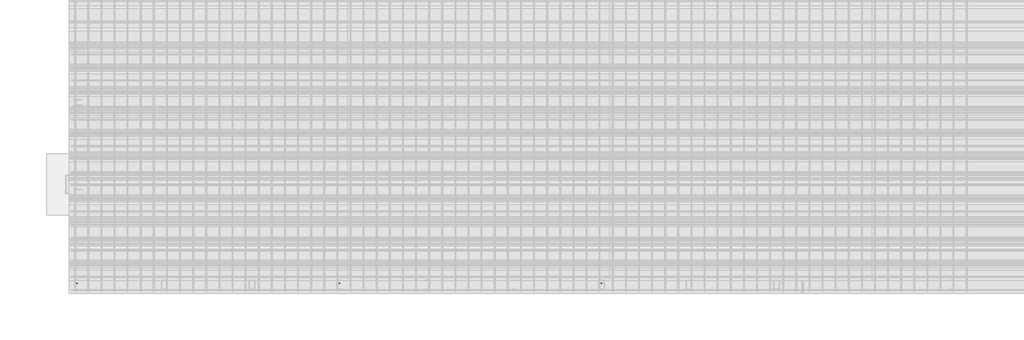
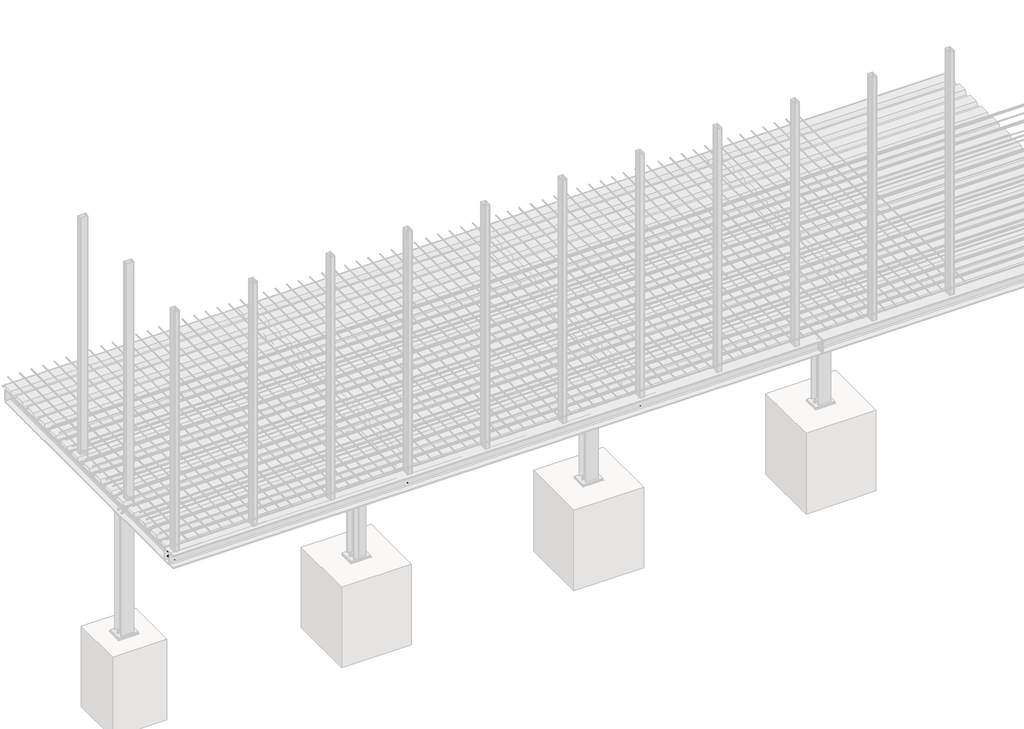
# One storey, part 23 of 36: 3 assemblies.
"""IFC4 building model written with IfcOpenShell, lengths in millimetres."""

from ifc_helpers import new_model, si_unit, point, frame, frame_2d, origin, place, context, project, spatial, polyline, circle_curve, trimmed, segment, composite_curve, outline, extrude, element, save

model = new_model("IFC4")

# Units and contexts
model_context = context("Model", 3, world=origin())
ifc_project = project(units=[si_unit("LENGTHUNIT", "METRE", prefix="MILLI")], contexts=[model_context])

# Site, building, storey
site = spatial("IfcSite", under=ifc_project)
building = spatial("IfcBuilding", under=site)
storey = spatial("IfcBuildingStorey", under=building, Name="Základy", Elevation=-1200.0)

# Assemblies
placement = place(None, origin())
element("IfcElementAssembly", 1, at=placement, inside=storey, context=model_context, shape_type="SweptSolid", body=[
    extrude(outline(composite_curve([segment(polyline([(5073.6, 60.0), (5026.4, 60.0)]), True, "CONTINUOUS"), segment(trimmed(circle_curve(frame_2d((5026.4, 66.4)), 6.4), [point((5026.4, 60.0))], [point((5020.0, 66.4))], False, "CARTESIAN"), True, "CONTINUOUS"), segment(polyline([(5020.0, 66.4), (5020.0, 153.6)]), True, "CONTINUOUS"), segment(trimmed(circle_curve(frame_2d((5026.4, 153.6)), 6.4), [point((5020.0, 153.6))], [point((5026.4, 160.0))], False, "CARTESIAN"), True, "CONTINUOUS"), segment(polyline([(5026.4, 160.0), (5073.6, 160.0)]), True, "CONTINUOUS"), segment(trimmed(circle_curve(frame_2d((5073.6, 153.6)), 6.4), [point((5073.6, 160.0))], [point((5080.0, 153.6))], False, "CARTESIAN"), True, "CONTINUOUS"), segment(polyline([(5080.0, 153.6), (5080.0, 66.4)]), True, "CONTINUOUS"), segment(trimmed(circle_curve(frame_2d((5073.6, 66.4)), 6.4), [point((5080.0, 66.4))], [point((5073.6, 60.0))], False, "CARTESIAN"), True, "CONTINUOUS")], self_intersect=False), holes=[composite_curve([segment(trimmed(circle_curve(frame_2d((5073.6, 66.4)), 3.2), [point((5073.6, 63.2))], [point((5076.8, 66.4))], True, "CARTESIAN"), True, "CONTINUOUS"), segment(polyline([(5076.8, 66.4), (5076.8, 153.6)]), True, "CONTINUOUS"), segment(trimmed(circle_curve(frame_2d((5073.6, 153.6)), 3.2), [point((5076.8, 153.6))], [point((5073.6, 156.8))], True, "CARTESIAN"), True, "CONTINUOUS"), segment(polyline([(5073.6, 156.8), (5026.4, 156.8)]), True, "CONTINUOUS"), segment(trimmed(circle_curve(frame_2d((5026.4, 153.6)), 3.2), [point((5026.4, 156.8))], [point((5023.2, 153.6))], True, "CARTESIAN"), True, "CONTINUOUS"), segment(polyline([(5023.2, 153.6), (5023.2, 66.4)]), True, "CONTINUOUS"), segment(trimmed(circle_curve(frame_2d((5026.4, 66.4)), 3.2), [point((5023.2, 66.4))], [point((5026.4, 63.2))], True, "CARTESIAN"), True, "CONTINUOUS"), segment(polyline([(5026.4, 63.2), (5073.6, 63.2)]), True, "CONTINUOUS")], self_intersect=False)]), frame((0.0, 0.0, -160.0), z_axis=(0.0, 0.0, 1.0), x_axis=(1.0, 0.0, 0.0)), (0.0, 0.0, 1.0), 3320.0),
])
element("IfcElementAssembly", 2, at=placement, inside=storey, context=model_context, shape_type="SweptSolid", body=[
    extrude(outline(composite_curve([segment(polyline([(10.0, -160.0), (190.0, -160.0), (190.0, -174.0), (119.25, -174.0)]), True, "CONTINUOUS"), segment(trimmed(circle_curve(frame_2d((119.25, -189.0)), 15.0), [point((119.25, -174.0))], [point((104.25, -189.0))], True, "CARTESIAN"), True, "CONTINUOUS"), segment(polyline([(104.25, -189.0), (104.25, -311.0)]), True, "CONTINUOUS"), segment(trimmed(circle_curve(frame_2d((119.25, -311.0)), 15.0), [point((104.25, -311.0))], [point((119.25, -326.0))], True, "CARTESIAN"), True, "CONTINUOUS"), segment(polyline([(119.25, -326.0), (190.0, -326.0), (190.0, -340.0), (10.0, -340.0), (10.0, -326.0), (80.75, -326.0)]), True, "CONTINUOUS"), segment(trimmed(circle_curve(frame_2d((80.75, -311.0)), 15.0), [point((80.75, -326.0))], [point((95.75, -311.0))], True, "CARTESIAN"), True, "CONTINUOUS"), segment(polyline([(95.75, -311.0), (95.75, -189.0)]), True, "CONTINUOUS"), segment(trimmed(circle_curve(frame_2d((80.75, -189.0)), 15.0), [point((95.75, -189.0))], [point((80.75, -174.0))], True, "CARTESIAN"), True, "CONTINUOUS"), segment(polyline([(80.75, -174.0), (10.0, -174.0), (10.0, -160.0)]), True, "CONTINUOUS")], self_intersect=False)), frame((-40.0, 0.0, 0.0), z_axis=(1.0, 0.0, 0.0), x_axis=(0.0, 1.0, 0.0)), (0.0, 0.0, 1.0), 8380.0),
    extrude(outline(composite_curve([segment(polyline([(190.0, -174.0), (190.0, -326.0), (124.25, -326.0)]), True, "CONTINUOUS"), segment(trimmed(circle_curve(frame_2d((104.25, -326.0)), 20.0), [point((124.25, -326.0))], [point((104.25, -306.0))], True, "CARTESIAN"), True, "CONTINUOUS"), segment(polyline([(104.25, -306.0), (104.25, -194.0)]), True, "CONTINUOUS"), segment(trimmed(circle_curve(frame_2d((104.25, -174.0)), 20.0), [point((104.25, -194.0))], [point((124.25, -174.0))], True, "CARTESIAN"), True, "CONTINUOUS"), segment(polyline([(124.25, -174.0), (190.0, -174.0)]), True, "CONTINUOUS")], self_intersect=False)), frame((3046.0, 0.0, 0.0), z_axis=(1.0, 0.0, 0.0), x_axis=(0.0, 1.0, 0.0)), (0.0, 0.0, 1.0), 8.0),
    extrude(outline(polyline([(2960.0, 200.0), (3140.0, 200.0), (3140.0, 190.0), (2960.0, 190.0), (2960.0, 200.0)])), frame((0.0, 0.0, -332.0), z_axis=(0.0, 0.0, 1.0), x_axis=(1.0, 0.0, 0.0)), (0.0, 0.0, 1.0), 164.0),
    extrude(outline(composite_curve([segment(polyline([(190.0, -174.0), (190.0, -326.0), (124.25, -326.0)]), True, "CONTINUOUS"), segment(trimmed(circle_curve(frame_2d((104.25, -326.0)), 20.0), [point((124.25, -326.0))], [point((104.25, -306.0))], True, "CARTESIAN"), True, "CONTINUOUS"), segment(polyline([(104.25, -306.0), (104.25, -194.0)]), True, "CONTINUOUS"), segment(trimmed(circle_curve(frame_2d((104.25, -174.0)), 20.0), [point((104.25, -194.0))], [point((124.25, -174.0))], True, "CARTESIAN"), True, "CONTINUOUS"), segment(polyline([(124.25, -174.0), (190.0, -174.0)]), True, "CONTINUOUS")], self_intersect=False)), frame((46.0, 0.0, 0.0), z_axis=(1.0, 0.0, 0.0), x_axis=(0.0, 1.0, 0.0)), (0.0, 0.0, 1.0), 8.0),
    extrude(outline(polyline([(-40.0, 200.0), (140.0, 200.0), (140.0, 190.0), (-40.0, 190.0), (-40.0, 200.0)])), frame((0.0, 0.0, -332.0), z_axis=(0.0, 0.0, 1.0), x_axis=(1.0, 0.0, 0.0)), (0.0, 0.0, 1.0), 164.0),
    extrude(outline(composite_curve([segment(polyline([(190.0, -174.0), (190.0, -326.0), (124.25, -326.0)]), True, "CONTINUOUS"), segment(trimmed(circle_curve(frame_2d((104.25, -326.0)), 20.0), [point((124.25, -326.0))], [point((104.25, -306.0))], True, "CARTESIAN"), True, "CONTINUOUS"), segment(polyline([(104.25, -306.0), (104.25, -194.0)]), True, "CONTINUOUS"), segment(trimmed(circle_curve(frame_2d((104.25, -174.0)), 20.0), [point((104.25, -194.0))], [point((124.25, -174.0))], True, "CARTESIAN"), True, "CONTINUOUS"), segment(polyline([(124.25, -174.0), (190.0, -174.0)]), True, "CONTINUOUS")], self_intersect=False)), frame((6046.0, 0.0, 0.0), z_axis=(1.0, 0.0, 0.0), x_axis=(0.0, 1.0, 0.0)), (0.0, 0.0, 1.0), 8.0),
    extrude(outline(polyline([(5960.0, 200.0), (6140.0, 200.0), (6140.0, 190.0), (5960.0, 190.0), (5960.0, 200.0)])), frame((0.0, 0.0, -332.0), z_axis=(0.0, 0.0, 1.0), x_axis=(1.0, 0.0, 0.0)), (0.0, 0.0, 1.0), 164.0),
    extrude(outline(polyline([(8350.0, 190.0), (8350.0, 10.0), (8340.0, 10.0), (8340.0, 190.0), (8350.0, 190.0)])), frame((0.0, 0.0, -332.0), z_axis=(0.0, 0.0, 1.0), x_axis=(1.0, 0.0, 0.0)), (0.0, 0.0, 1.0), 164.0),
    extrude(outline(composite_curve([segment(trimmed(circle_curve(frame_2d((-290.0, 3005.0)), 9.0), [point((-290.0, 3014.0))], [point((-290.0, 2996.0))], False, "CARTESIAN"), True, "CONTINUOUS"), segment(trimmed(circle_curve(frame_2d((-290.0, 3005.0)), 9.0), [point((-290.0, 2996.0))], [point((-290.0, 3014.0))], False, "CARTESIAN"), True, "CONTINUOUS")], self_intersect=False)), frame((0.0, 190.1, 0.0), z_axis=(0.0, 1.0, 0.0), x_axis=(0.0, 0.0, 1.0)), (0.0, 0.0, 1.0), 10.0),
    extrude(outline(polyline([(-290.0, 3018.8564065), (-278.0, 3011.9282032), (-278.0, 2998.0717968), (-290.0, 2991.1435935), (-302.0, 2998.0717968), (-302.0, 3011.9282032), (-290.0, 3018.8564065)])), frame((0.0, 177.0, 0.0), z_axis=(0.0, 1.0, 0.0), x_axis=(0.0, 0.0, 1.0)), (0.0, 0.0, 1.0), 10.0),
    extrude(outline(composite_curve([segment(trimmed(circle_curve(frame_2d((-290.0, 3005.0)), 8.0), [point((-290.0, 3013.0))], [point((-290.0, 2997.0))], False, "CARTESIAN"), True, "CONTINUOUS"), segment(trimmed(circle_curve(frame_2d((-290.0, 3005.0)), 8.0), [point((-290.0, 2997.0))], [point((-290.0, 3013.0))], False, "CARTESIAN"), True, "CONTINUOUS")], self_intersect=False)), frame((0.0, 187.0, 0.0), z_axis=(0.0, 1.0, 0.0), x_axis=(0.0, 0.0, 1.0)), (0.0, 0.0, 1.0), 50.0),
    extrude(outline(composite_curve([segment(trimmed(circle_curve(frame_2d((-290.0, 3005.0)), 15.0), [point((-290.0, 3020.0))], [point((-290.0, 2990.0))], False, "CARTESIAN"), True, "CONTINUOUS"), segment(trimmed(circle_curve(frame_2d((-290.0, 3005.0)), 15.0), [point((-290.0, 2990.0))], [point((-290.0, 3020.0))], False, "CARTESIAN"), True, "CONTINUOUS")], self_intersect=False)), frame((0.0, 187.0, 0.0), z_axis=(0.0, 1.0, 0.0), x_axis=(0.0, 0.0, 1.0)), (0.0, 0.0, 1.0), 3.0),
    extrude(outline(composite_curve([segment(trimmed(circle_curve(frame_2d((-290.0, 3005.0)), 15.0), [point((-290.0, 3020.0))], [point((-290.0, 2990.0))], False, "CARTESIAN"), True, "CONTINUOUS"), segment(trimmed(circle_curve(frame_2d((-290.0, 3005.0)), 15.0), [point((-290.0, 2990.0))], [point((-290.0, 3020.0))], False, "CARTESIAN"), True, "CONTINUOUS")], self_intersect=False)), frame((0.0, 210.0, 0.0), z_axis=(0.0, 1.0, 0.0), x_axis=(0.0, 0.0, 1.0)), (0.0, 0.0, 1.0), 3.0),
    extrude(outline(polyline([(-290.0, 3020.4441197), (-276.625, 3012.7220599), (-276.625, 2997.2779401), (-290.0, 2989.5558803), (-303.375, 2997.2779401), (-303.375, 3012.7220599), (-290.0, 3020.4441197)])), frame((0.0, 213.0, 0.0), z_axis=(0.0, 1.0, 0.0), x_axis=(0.0, 0.0, 1.0)), (0.0, 0.0, 1.0), 13.0),
    extrude(outline(composite_curve([segment(trimmed(circle_curve(frame_2d((-290.0, 3005.0)), 9.0), [point((-290.0, 3014.0))], [point((-290.0, 2996.0))], False, "CARTESIAN"), True, "CONTINUOUS"), segment(trimmed(circle_curve(frame_2d((-290.0, 3005.0)), 9.0), [point((-290.0, 2996.0))], [point((-290.0, 3014.0))], False, "CARTESIAN"), True, "CONTINUOUS")], self_intersect=False)), frame((0.0, 199.9, 0.0), z_axis=(0.0, 1.0, 0.0), x_axis=(0.0, 0.0, 1.0)), (0.0, 0.0, 1.0), 10.1),
    extrude(outline(composite_curve([segment(trimmed(circle_curve(frame_2d((-290.0, 3095.0)), 9.0), [point((-290.0, 3104.0))], [point((-290.0, 3086.0))], False, "CARTESIAN"), True, "CONTINUOUS"), segment(trimmed(circle_curve(frame_2d((-290.0, 3095.0)), 9.0), [point((-290.0, 3086.0))], [point((-290.0, 3104.0))], False, "CARTESIAN"), True, "CONTINUOUS")], self_intersect=False)), frame((0.0, 190.1, 0.0), z_axis=(0.0, 1.0, 0.0), x_axis=(0.0, 0.0, 1.0)), (0.0, 0.0, 1.0), 10.0),
    extrude(outline(polyline([(-290.0, 3108.8564065), (-278.0, 3101.9282032), (-278.0, 3088.0717968), (-290.0, 3081.1435935), (-302.0, 3088.0717968), (-302.0, 3101.9282032), (-290.0, 3108.8564065)])), frame((0.0, 177.0, 0.0), z_axis=(0.0, 1.0, 0.0), x_axis=(0.0, 0.0, 1.0)), (0.0, 0.0, 1.0), 10.0),
    extrude(outline(composite_curve([segment(trimmed(circle_curve(frame_2d((-290.0, 3095.0)), 8.0), [point((-290.0, 3103.0))], [point((-290.0, 3087.0))], False, "CARTESIAN"), True, "CONTINUOUS"), segment(trimmed(circle_curve(frame_2d((-290.0, 3095.0)), 8.0), [point((-290.0, 3087.0))], [point((-290.0, 3103.0))], False, "CARTESIAN"), True, "CONTINUOUS")], self_intersect=False)), frame((0.0, 187.0, 0.0), z_axis=(0.0, 1.0, 0.0), x_axis=(0.0, 0.0, 1.0)), (0.0, 0.0, 1.0), 50.0),
    extrude(outline(composite_curve([segment(trimmed(circle_curve(frame_2d((-290.0, 3095.0)), 15.0), [point((-290.0, 3110.0))], [point((-290.0, 3080.0))], False, "CARTESIAN"), True, "CONTINUOUS"), segment(trimmed(circle_curve(frame_2d((-290.0, 3095.0)), 15.0), [point((-290.0, 3080.0))], [point((-290.0, 3110.0))], False, "CARTESIAN"), True, "CONTINUOUS")], self_intersect=False)), frame((0.0, 187.0, 0.0), z_axis=(0.0, 1.0, 0.0), x_axis=(0.0, 0.0, 1.0)), (0.0, 0.0, 1.0), 3.0),
    extrude(outline(composite_curve([segment(trimmed(circle_curve(frame_2d((-290.0, 3095.0)), 15.0), [point((-290.0, 3110.0))], [point((-290.0, 3080.0))], False, "CARTESIAN"), True, "CONTINUOUS"), segment(trimmed(circle_curve(frame_2d((-290.0, 3095.0)), 15.0), [point((-290.0, 3080.0))], [point((-290.0, 3110.0))], False, "CARTESIAN"), True, "CONTINUOUS")], self_intersect=False)), frame((0.0, 210.0, 0.0), z_axis=(0.0, 1.0, 0.0), x_axis=(0.0, 0.0, 1.0)), (0.0, 0.0, 1.0), 3.0),
    extrude(outline(polyline([(-290.0, 3110.4441197), (-276.625, 3102.7220599), (-276.625, 3087.2779401), (-290.0, 3079.5558803), (-303.375, 3087.2779401), (-303.375, 3102.7220599), (-290.0, 3110.4441197)])), frame((0.0, 213.0, 0.0), z_axis=(0.0, 1.0, 0.0), x_axis=(0.0, 0.0, 1.0)), (0.0, 0.0, 1.0), 13.0),
    extrude(outline(composite_curve([segment(trimmed(circle_curve(frame_2d((-290.0, 3095.0)), 9.0), [point((-290.0, 3104.0))], [point((-290.0, 3086.0))], False, "CARTESIAN"), True, "CONTINUOUS"), segment(trimmed(circle_curve(frame_2d((-290.0, 3095.0)), 9.0), [point((-290.0, 3086.0))], [point((-290.0, 3104.0))], False, "CARTESIAN"), True, "CONTINUOUS")], self_intersect=False)), frame((0.0, 199.9, 0.0), z_axis=(0.0, 1.0, 0.0), x_axis=(0.0, 0.0, 1.0)), (0.0, 0.0, 1.0), 10.1),
    extrude(outline(composite_curve([segment(trimmed(circle_curve(frame_2d((-210.0, 3005.0)), 9.0), [point((-210.0, 3014.0))], [point((-210.0, 2996.0))], False, "CARTESIAN"), True, "CONTINUOUS"), segment(trimmed(circle_curve(frame_2d((-210.0, 3005.0)), 9.0), [point((-210.0, 2996.0))], [point((-210.0, 3014.0))], False, "CARTESIAN"), True, "CONTINUOUS")], self_intersect=False)), frame((0.0, 190.1, 0.0), z_axis=(0.0, 1.0, 0.0), x_axis=(0.0, 0.0, 1.0)), (0.0, 0.0, 1.0), 10.0),
    extrude(outline(polyline([(-210.0, 3018.8564065), (-198.0, 3011.9282032), (-198.0, 2998.0717968), (-210.0, 2991.1435935), (-222.0, 2998.0717968), (-222.0, 3011.9282032), (-210.0, 3018.8564065)])), frame((0.0, 177.0, 0.0), z_axis=(0.0, 1.0, 0.0), x_axis=(0.0, 0.0, 1.0)), (0.0, 0.0, 1.0), 10.0),
    extrude(outline(composite_curve([segment(trimmed(circle_curve(frame_2d((-210.0, 3005.0)), 8.0), [point((-210.0, 3013.0))], [point((-210.0, 2997.0))], False, "CARTESIAN"), True, "CONTINUOUS"), segment(trimmed(circle_curve(frame_2d((-210.0, 3005.0)), 8.0), [point((-210.0, 2997.0))], [point((-210.0, 3013.0))], False, "CARTESIAN"), True, "CONTINUOUS")], self_intersect=False)), frame((0.0, 187.0, 0.0), z_axis=(0.0, 1.0, 0.0), x_axis=(0.0, 0.0, 1.0)), (0.0, 0.0, 1.0), 50.0),
    extrude(outline(composite_curve([segment(trimmed(circle_curve(frame_2d((-210.0, 3005.0)), 15.0), [point((-210.0, 3020.0))], [point((-210.0, 2990.0))], False, "CARTESIAN"), True, "CONTINUOUS"), segment(trimmed(circle_curve(frame_2d((-210.0, 3005.0)), 15.0), [point((-210.0, 2990.0))], [point((-210.0, 3020.0))], False, "CARTESIAN"), True, "CONTINUOUS")], self_intersect=False)), frame((0.0, 187.0, 0.0), z_axis=(0.0, 1.0, 0.0), x_axis=(0.0, 0.0, 1.0)), (0.0, 0.0, 1.0), 3.0),
    extrude(outline(composite_curve([segment(trimmed(circle_curve(frame_2d((-210.0, 3005.0)), 15.0), [point((-210.0, 3020.0))], [point((-210.0, 2990.0))], False, "CARTESIAN"), True, "CONTINUOUS"), segment(trimmed(circle_curve(frame_2d((-210.0, 3005.0)), 15.0), [point((-210.0, 2990.0))], [point((-210.0, 3020.0))], False, "CARTESIAN"), True, "CONTINUOUS")], self_intersect=False)), frame((0.0, 210.0, 0.0), z_axis=(0.0, 1.0, 0.0), x_axis=(0.0, 0.0, 1.0)), (0.0, 0.0, 1.0), 3.0),
    extrude(outline(polyline([(-210.0, 3020.4441197), (-196.625, 3012.7220599), (-196.625, 2997.2779401), (-210.0, 2989.5558803), (-223.375, 2997.2779401), (-223.375, 3012.7220599), (-210.0, 3020.4441197)])), frame((0.0, 213.0, 0.0), z_axis=(0.0, 1.0, 0.0), x_axis=(0.0, 0.0, 1.0)), (0.0, 0.0, 1.0), 13.0),
    extrude(outline(composite_curve([segment(trimmed(circle_curve(frame_2d((-210.0, 3005.0)), 9.0), [point((-210.0, 3014.0))], [point((-210.0, 2996.0))], False, "CARTESIAN"), True, "CONTINUOUS"), segment(trimmed(circle_curve(frame_2d((-210.0, 3005.0)), 9.0), [point((-210.0, 2996.0))], [point((-210.0, 3014.0))], False, "CARTESIAN"), True, "CONTINUOUS")], self_intersect=False)), frame((0.0, 199.9, 0.0), z_axis=(0.0, 1.0, 0.0), x_axis=(0.0, 0.0, 1.0)), (0.0, 0.0, 1.0), 10.1),
    extrude(outline(composite_curve([segment(trimmed(circle_curve(frame_2d((-210.0, 3095.0)), 9.0), [point((-210.0, 3104.0))], [point((-210.0, 3086.0))], False, "CARTESIAN"), True, "CONTINUOUS"), segment(trimmed(circle_curve(frame_2d((-210.0, 3095.0)), 9.0), [point((-210.0, 3086.0))], [point((-210.0, 3104.0))], False, "CARTESIAN"), True, "CONTINUOUS")], self_intersect=False)), frame((0.0, 190.1, 0.0), z_axis=(0.0, 1.0, 0.0), x_axis=(0.0, 0.0, 1.0)), (0.0, 0.0, 1.0), 10.0),
    extrude(outline(polyline([(-210.0, 3108.8564065), (-198.0, 3101.9282032), (-198.0, 3088.0717968), (-210.0, 3081.1435935), (-222.0, 3088.0717968), (-222.0, 3101.9282032), (-210.0, 3108.8564065)])), frame((0.0, 177.0, 0.0), z_axis=(0.0, 1.0, 0.0), x_axis=(0.0, 0.0, 1.0)), (0.0, 0.0, 1.0), 10.0),
    extrude(outline(composite_curve([segment(trimmed(circle_curve(frame_2d((-210.0, 3095.0)), 8.0), [point((-210.0, 3103.0))], [point((-210.0, 3087.0))], False, "CARTESIAN"), True, "CONTINUOUS"), segment(trimmed(circle_curve(frame_2d((-210.0, 3095.0)), 8.0), [point((-210.0, 3087.0))], [point((-210.0, 3103.0))], False, "CARTESIAN"), True, "CONTINUOUS")], self_intersect=False)), frame((0.0, 187.0, 0.0), z_axis=(0.0, 1.0, 0.0), x_axis=(0.0, 0.0, 1.0)), (0.0, 0.0, 1.0), 50.0),
    extrude(outline(composite_curve([segment(trimmed(circle_curve(frame_2d((-210.0, 3095.0)), 15.0), [point((-210.0, 3110.0))], [point((-210.0, 3080.0))], False, "CARTESIAN"), True, "CONTINUOUS"), segment(trimmed(circle_curve(frame_2d((-210.0, 3095.0)), 15.0), [point((-210.0, 3080.0))], [point((-210.0, 3110.0))], False, "CARTESIAN"), True, "CONTINUOUS")], self_intersect=False)), frame((0.0, 187.0, 0.0), z_axis=(0.0, 1.0, 0.0), x_axis=(0.0, 0.0, 1.0)), (0.0, 0.0, 1.0), 3.0),
    extrude(outline(composite_curve([segment(trimmed(circle_curve(frame_2d((-210.0, 3095.0)), 15.0), [point((-210.0, 3110.0))], [point((-210.0, 3080.0))], False, "CARTESIAN"), True, "CONTINUOUS"), segment(trimmed(circle_curve(frame_2d((-210.0, 3095.0)), 15.0), [point((-210.0, 3080.0))], [point((-210.0, 3110.0))], False, "CARTESIAN"), True, "CONTINUOUS")], self_intersect=False)), frame((0.0, 210.0, 0.0), z_axis=(0.0, 1.0, 0.0), x_axis=(0.0, 0.0, 1.0)), (0.0, 0.0, 1.0), 3.0),
    extrude(outline(polyline([(-210.0, 3110.4441197), (-196.625, 3102.7220599), (-196.625, 3087.2779401), (-210.0, 3079.5558803), (-223.375, 3087.2779401), (-223.375, 3102.7220599), (-210.0, 3110.4441197)])), frame((0.0, 213.0, 0.0), z_axis=(0.0, 1.0, 0.0), x_axis=(0.0, 0.0, 1.0)), (0.0, 0.0, 1.0), 13.0),
    extrude(outline(composite_curve([segment(trimmed(circle_curve(frame_2d((-210.0, 3095.0)), 9.0), [point((-210.0, 3104.0))], [point((-210.0, 3086.0))], False, "CARTESIAN"), True, "CONTINUOUS"), segment(trimmed(circle_curve(frame_2d((-210.0, 3095.0)), 9.0), [point((-210.0, 3086.0))], [point((-210.0, 3104.0))], False, "CARTESIAN"), True, "CONTINUOUS")], self_intersect=False)), frame((0.0, 199.9, 0.0), z_axis=(0.0, 1.0, 0.0), x_axis=(0.0, 0.0, 1.0)), (0.0, 0.0, 1.0), 10.1),
    extrude(outline(composite_curve([segment(trimmed(circle_curve(frame_2d((-290.0, 5.0)), 9.0), [point((-290.0, 14.0))], [point((-290.0, -4.0))], False, "CARTESIAN"), True, "CONTINUOUS"), segment(trimmed(circle_curve(frame_2d((-290.0, 5.0)), 9.0), [point((-290.0, -4.0))], [point((-290.0, 14.0))], False, "CARTESIAN"), True, "CONTINUOUS")], self_intersect=False)), frame((0.0, 190.1, 0.0), z_axis=(0.0, 1.0, 0.0), x_axis=(0.0, 0.0, 1.0)), (0.0, 0.0, 1.0), 10.0),
    extrude(outline(polyline([(-290.0, 18.8564065), (-278.0, 11.9282032), (-278.0, -1.9282032), (-290.0, -8.8564065), (-302.0, -1.9282032), (-302.0, 11.9282032), (-290.0, 18.8564065)])), frame((0.0, 177.0, 0.0), z_axis=(0.0, 1.0, 0.0), x_axis=(0.0, 0.0, 1.0)), (0.0, 0.0, 1.0), 10.0),
    extrude(outline(composite_curve([segment(trimmed(circle_curve(frame_2d((-290.0, 5.0)), 8.0), [point((-290.0, 13.0))], [point((-290.0, -3.0))], False, "CARTESIAN"), True, "CONTINUOUS"), segment(trimmed(circle_curve(frame_2d((-290.0, 5.0)), 8.0), [point((-290.0, -3.0))], [point((-290.0, 13.0))], False, "CARTESIAN"), True, "CONTINUOUS")], self_intersect=False)), frame((0.0, 187.0, 0.0), z_axis=(0.0, 1.0, 0.0), x_axis=(0.0, 0.0, 1.0)), (0.0, 0.0, 1.0), 50.0),
    extrude(outline(composite_curve([segment(trimmed(circle_curve(frame_2d((-290.0, 5.0)), 15.0), [point((-290.0, 20.0))], [point((-290.0, -10.0))], False, "CARTESIAN"), True, "CONTINUOUS"), segment(trimmed(circle_curve(frame_2d((-290.0, 5.0)), 15.0), [point((-290.0, -10.0))], [point((-290.0, 20.0))], False, "CARTESIAN"), True, "CONTINUOUS")], self_intersect=False)), frame((0.0, 187.0, 0.0), z_axis=(0.0, 1.0, 0.0), x_axis=(0.0, 0.0, 1.0)), (0.0, 0.0, 1.0), 3.0),
    extrude(outline(composite_curve([segment(trimmed(circle_curve(frame_2d((-290.0, 5.0)), 15.0), [point((-290.0, 20.0))], [point((-290.0, -10.0))], False, "CARTESIAN"), True, "CONTINUOUS"), segment(trimmed(circle_curve(frame_2d((-290.0, 5.0)), 15.0), [point((-290.0, -10.0))], [point((-290.0, 20.0))], False, "CARTESIAN"), True, "CONTINUOUS")], self_intersect=False)), frame((0.0, 210.0, 0.0), z_axis=(0.0, 1.0, 0.0), x_axis=(0.0, 0.0, 1.0)), (0.0, 0.0, 1.0), 3.0),
    extrude(outline(polyline([(-290.0, 20.4441197), (-276.625, 12.7220599), (-276.625, -2.7220599), (-290.0, -10.4441197), (-303.375, -2.7220599), (-303.375, 12.7220599), (-290.0, 20.4441197)])), frame((0.0, 213.0, 0.0), z_axis=(0.0, 1.0, 0.0), x_axis=(0.0, 0.0, 1.0)), (0.0, 0.0, 1.0), 13.0),
    extrude(outline(composite_curve([segment(trimmed(circle_curve(frame_2d((-290.0, 5.0)), 9.0), [point((-290.0, 14.0))], [point((-290.0, -4.0))], False, "CARTESIAN"), True, "CONTINUOUS"), segment(trimmed(circle_curve(frame_2d((-290.0, 5.0)), 9.0), [point((-290.0, -4.0))], [point((-290.0, 14.0))], False, "CARTESIAN"), True, "CONTINUOUS")], self_intersect=False)), frame((0.0, 199.9, 0.0), z_axis=(0.0, 1.0, 0.0), x_axis=(0.0, 0.0, 1.0)), (0.0, 0.0, 1.0), 10.1),
    extrude(outline(composite_curve([segment(trimmed(circle_curve(frame_2d((-290.0, 95.0)), 9.0), [point((-290.0, 104.0))], [point((-290.0, 86.0))], False, "CARTESIAN"), True, "CONTINUOUS"), segment(trimmed(circle_curve(frame_2d((-290.0, 95.0)), 9.0), [point((-290.0, 86.0))], [point((-290.0, 104.0))], False, "CARTESIAN"), True, "CONTINUOUS")], self_intersect=False)), frame((0.0, 190.1, 0.0), z_axis=(0.0, 1.0, 0.0), x_axis=(0.0, 0.0, 1.0)), (0.0, 0.0, 1.0), 10.0),
    extrude(outline(polyline([(-290.0, 108.8564065), (-278.0, 101.9282032), (-278.0, 88.0717968), (-290.0, 81.1435935), (-302.0, 88.0717968), (-302.0, 101.9282032), (-290.0, 108.8564065)])), frame((0.0, 177.0, 0.0), z_axis=(0.0, 1.0, 0.0), x_axis=(0.0, 0.0, 1.0)), (0.0, 0.0, 1.0), 10.0),
    extrude(outline(composite_curve([segment(trimmed(circle_curve(frame_2d((-290.0, 95.0)), 8.0), [point((-290.0, 103.0))], [point((-290.0, 87.0))], False, "CARTESIAN"), True, "CONTINUOUS"), segment(trimmed(circle_curve(frame_2d((-290.0, 95.0)), 8.0), [point((-290.0, 87.0))], [point((-290.0, 103.0))], False, "CARTESIAN"), True, "CONTINUOUS")], self_intersect=False)), frame((0.0, 187.0, 0.0), z_axis=(0.0, 1.0, 0.0), x_axis=(0.0, 0.0, 1.0)), (0.0, 0.0, 1.0), 50.0),
    extrude(outline(composite_curve([segment(trimmed(circle_curve(frame_2d((-290.0, 95.0)), 15.0), [point((-290.0, 110.0))], [point((-290.0, 80.0))], False, "CARTESIAN"), True, "CONTINUOUS"), segment(trimmed(circle_curve(frame_2d((-290.0, 95.0)), 15.0), [point((-290.0, 80.0))], [point((-290.0, 110.0))], False, "CARTESIAN"), True, "CONTINUOUS")], self_intersect=False)), frame((0.0, 187.0, 0.0), z_axis=(0.0, 1.0, 0.0), x_axis=(0.0, 0.0, 1.0)), (0.0, 0.0, 1.0), 3.0),
    extrude(outline(composite_curve([segment(trimmed(circle_curve(frame_2d((-290.0, 95.0)), 15.0), [point((-290.0, 110.0))], [point((-290.0, 80.0))], False, "CARTESIAN"), True, "CONTINUOUS"), segment(trimmed(circle_curve(frame_2d((-290.0, 95.0)), 15.0), [point((-290.0, 80.0))], [point((-290.0, 110.0))], False, "CARTESIAN"), True, "CONTINUOUS")], self_intersect=False)), frame((0.0, 210.0, 0.0), z_axis=(0.0, 1.0, 0.0), x_axis=(0.0, 0.0, 1.0)), (0.0, 0.0, 1.0), 3.0),
    extrude(outline(polyline([(-290.0, 110.4441197), (-276.625, 102.7220599), (-276.625, 87.2779401), (-290.0, 79.5558803), (-303.375, 87.2779401), (-303.375, 102.7220599), (-290.0, 110.4441197)])), frame((0.0, 213.0, 0.0), z_axis=(0.0, 1.0, 0.0), x_axis=(0.0, 0.0, 1.0)), (0.0, 0.0, 1.0), 13.0),
    extrude(outline(composite_curve([segment(trimmed(circle_curve(frame_2d((-290.0, 95.0)), 9.0), [point((-290.0, 104.0))], [point((-290.0, 86.0))], False, "CARTESIAN"), True, "CONTINUOUS"), segment(trimmed(circle_curve(frame_2d((-290.0, 95.0)), 9.0), [point((-290.0, 86.0))], [point((-290.0, 104.0))], False, "CARTESIAN"), True, "CONTINUOUS")], self_intersect=False)), frame((0.0, 199.9, 0.0), z_axis=(0.0, 1.0, 0.0), x_axis=(0.0, 0.0, 1.0)), (0.0, 0.0, 1.0), 10.1),
    extrude(outline(composite_curve([segment(trimmed(circle_curve(frame_2d((-210.0, 5.0)), 9.0), [point((-210.0, 14.0))], [point((-210.0, -4.0))], False, "CARTESIAN"), True, "CONTINUOUS"), segment(trimmed(circle_curve(frame_2d((-210.0, 5.0)), 9.0), [point((-210.0, -4.0))], [point((-210.0, 14.0))], False, "CARTESIAN"), True, "CONTINUOUS")], self_intersect=False)), frame((0.0, 190.1, 0.0), z_axis=(0.0, 1.0, 0.0), x_axis=(0.0, 0.0, 1.0)), (0.0, 0.0, 1.0), 10.0),
    extrude(outline(polyline([(-210.0, 18.8564065), (-198.0, 11.9282032), (-198.0, -1.9282032), (-210.0, -8.8564065), (-222.0, -1.9282032), (-222.0, 11.9282032), (-210.0, 18.8564065)])), frame((0.0, 177.0, 0.0), z_axis=(0.0, 1.0, 0.0), x_axis=(0.0, 0.0, 1.0)), (0.0, 0.0, 1.0), 10.0),
    extrude(outline(composite_curve([segment(trimmed(circle_curve(frame_2d((-210.0, 5.0)), 8.0), [point((-210.0, 13.0))], [point((-210.0, -3.0))], False, "CARTESIAN"), True, "CONTINUOUS"), segment(trimmed(circle_curve(frame_2d((-210.0, 5.0)), 8.0), [point((-210.0, -3.0))], [point((-210.0, 13.0))], False, "CARTESIAN"), True, "CONTINUOUS")], self_intersect=False)), frame((0.0, 187.0, 0.0), z_axis=(0.0, 1.0, 0.0), x_axis=(0.0, 0.0, 1.0)), (0.0, 0.0, 1.0), 50.0),
    extrude(outline(composite_curve([segment(trimmed(circle_curve(frame_2d((-210.0, 5.0)), 15.0), [point((-210.0, 20.0))], [point((-210.0, -10.0))], False, "CARTESIAN"), True, "CONTINUOUS"), segment(trimmed(circle_curve(frame_2d((-210.0, 5.0)), 15.0), [point((-210.0, -10.0))], [point((-210.0, 20.0))], False, "CARTESIAN"), True, "CONTINUOUS")], self_intersect=False)), frame((0.0, 187.0, 0.0), z_axis=(0.0, 1.0, 0.0), x_axis=(0.0, 0.0, 1.0)), (0.0, 0.0, 1.0), 3.0),
    extrude(outline(composite_curve([segment(trimmed(circle_curve(frame_2d((-210.0, 5.0)), 15.0), [point((-210.0, 20.0))], [point((-210.0, -10.0))], False, "CARTESIAN"), True, "CONTINUOUS"), segment(trimmed(circle_curve(frame_2d((-210.0, 5.0)), 15.0), [point((-210.0, -10.0))], [point((-210.0, 20.0))], False, "CARTESIAN"), True, "CONTINUOUS")], self_intersect=False)), frame((0.0, 210.0, 0.0), z_axis=(0.0, 1.0, 0.0), x_axis=(0.0, 0.0, 1.0)), (0.0, 0.0, 1.0), 3.0),
    extrude(outline(polyline([(-210.0, 20.4441197), (-196.625, 12.7220599), (-196.625, -2.7220599), (-210.0, -10.4441197), (-223.375, -2.7220599), (-223.375, 12.7220599), (-210.0, 20.4441197)])), frame((0.0, 213.0, 0.0), z_axis=(0.0, 1.0, 0.0), x_axis=(0.0, 0.0, 1.0)), (0.0, 0.0, 1.0), 13.0),
    extrude(outline(composite_curve([segment(trimmed(circle_curve(frame_2d((-210.0, 5.0)), 9.0), [point((-210.0, 14.0))], [point((-210.0, -4.0))], False, "CARTESIAN"), True, "CONTINUOUS"), segment(trimmed(circle_curve(frame_2d((-210.0, 5.0)), 9.0), [point((-210.0, -4.0))], [point((-210.0, 14.0))], False, "CARTESIAN"), True, "CONTINUOUS")], self_intersect=False)), frame((0.0, 199.9, 0.0), z_axis=(0.0, 1.0, 0.0), x_axis=(0.0, 0.0, 1.0)), (0.0, 0.0, 1.0), 10.1),
    extrude(outline(composite_curve([segment(trimmed(circle_curve(frame_2d((-210.0, 95.0)), 9.0), [point((-210.0, 104.0))], [point((-210.0, 86.0))], False, "CARTESIAN"), True, "CONTINUOUS"), segment(trimmed(circle_curve(frame_2d((-210.0, 95.0)), 9.0), [point((-210.0, 86.0))], [point((-210.0, 104.0))], False, "CARTESIAN"), True, "CONTINUOUS")], self_intersect=False)), frame((0.0, 190.1, 0.0), z_axis=(0.0, 1.0, 0.0), x_axis=(0.0, 0.0, 1.0)), (0.0, 0.0, 1.0), 10.0),
    extrude(outline(polyline([(-210.0, 108.8564065), (-198.0, 101.9282032), (-198.0, 88.0717968), (-210.0, 81.1435935), (-222.0, 88.0717968), (-222.0, 101.9282032), (-210.0, 108.8564065)])), frame((0.0, 177.0, 0.0), z_axis=(0.0, 1.0, 0.0), x_axis=(0.0, 0.0, 1.0)), (0.0, 0.0, 1.0), 10.0),
    extrude(outline(composite_curve([segment(trimmed(circle_curve(frame_2d((-210.0, 95.0)), 8.0), [point((-210.0, 103.0))], [point((-210.0, 87.0))], False, "CARTESIAN"), True, "CONTINUOUS"), segment(trimmed(circle_curve(frame_2d((-210.0, 95.0)), 8.0), [point((-210.0, 87.0))], [point((-210.0, 103.0))], False, "CARTESIAN"), True, "CONTINUOUS")], self_intersect=False)), frame((0.0, 187.0, 0.0), z_axis=(0.0, 1.0, 0.0), x_axis=(0.0, 0.0, 1.0)), (0.0, 0.0, 1.0), 50.0),
    extrude(outline(composite_curve([segment(trimmed(circle_curve(frame_2d((-210.0, 95.0)), 15.0), [point((-210.0, 110.0))], [point((-210.0, 80.0))], False, "CARTESIAN"), True, "CONTINUOUS"), segment(trimmed(circle_curve(frame_2d((-210.0, 95.0)), 15.0), [point((-210.0, 80.0))], [point((-210.0, 110.0))], False, "CARTESIAN"), True, "CONTINUOUS")], self_intersect=False)), frame((0.0, 187.0, 0.0), z_axis=(0.0, 1.0, 0.0), x_axis=(0.0, 0.0, 1.0)), (0.0, 0.0, 1.0), 3.0),
    extrude(outline(composite_curve([segment(trimmed(circle_curve(frame_2d((-210.0, 95.0)), 15.0), [point((-210.0, 110.0))], [point((-210.0, 80.0))], False, "CARTESIAN"), True, "CONTINUOUS"), segment(trimmed(circle_curve(frame_2d((-210.0, 95.0)), 15.0), [point((-210.0, 80.0))], [point((-210.0, 110.0))], False, "CARTESIAN"), True, "CONTINUOUS")], self_intersect=False)), frame((0.0, 210.0, 0.0), z_axis=(0.0, 1.0, 0.0), x_axis=(0.0, 0.0, 1.0)), (0.0, 0.0, 1.0), 3.0),
    extrude(outline(polyline([(-210.0, 110.4441197), (-196.625, 102.7220599), (-196.625, 87.2779401), (-210.0, 79.5558803), (-223.375, 87.2779401), (-223.375, 102.7220599), (-210.0, 110.4441197)])), frame((0.0, 213.0, 0.0), z_axis=(0.0, 1.0, 0.0), x_axis=(0.0, 0.0, 1.0)), (0.0, 0.0, 1.0), 13.0),
    extrude(outline(composite_curve([segment(trimmed(circle_curve(frame_2d((-210.0, 95.0)), 9.0), [point((-210.0, 104.0))], [point((-210.0, 86.0))], False, "CARTESIAN"), True, "CONTINUOUS"), segment(trimmed(circle_curve(frame_2d((-210.0, 95.0)), 9.0), [point((-210.0, 86.0))], [point((-210.0, 104.0))], False, "CARTESIAN"), True, "CONTINUOUS")], self_intersect=False)), frame((0.0, 199.9, 0.0), z_axis=(0.0, 1.0, 0.0), x_axis=(0.0, 0.0, 1.0)), (0.0, 0.0, 1.0), 10.1),
    extrude(outline(composite_curve([segment(trimmed(circle_curve(frame_2d((-290.0, 6005.0)), 9.0), [point((-290.0, 6014.0))], [point((-290.0, 5996.0))], False, "CARTESIAN"), True, "CONTINUOUS"), segment(trimmed(circle_curve(frame_2d((-290.0, 6005.0)), 9.0), [point((-290.0, 5996.0))], [point((-290.0, 6014.0))], False, "CARTESIAN"), True, "CONTINUOUS")], self_intersect=False)), frame((0.0, 190.1, 0.0), z_axis=(0.0, 1.0, 0.0), x_axis=(0.0, 0.0, 1.0)), (0.0, 0.0, 1.0), 10.0),
    extrude(outline(polyline([(-290.0, 6018.8564065), (-278.0, 6011.9282032), (-278.0, 5998.0717968), (-290.0, 5991.1435935), (-302.0, 5998.0717968), (-302.0, 6011.9282032), (-290.0, 6018.8564065)])), frame((0.0, 177.0, 0.0), z_axis=(0.0, 1.0, 0.0), x_axis=(0.0, 0.0, 1.0)), (0.0, 0.0, 1.0), 10.0),
    extrude(outline(composite_curve([segment(trimmed(circle_curve(frame_2d((-290.0, 6005.0)), 8.0), [point((-290.0, 6013.0))], [point((-290.0, 5997.0))], False, "CARTESIAN"), True, "CONTINUOUS"), segment(trimmed(circle_curve(frame_2d((-290.0, 6005.0)), 8.0), [point((-290.0, 5997.0))], [point((-290.0, 6013.0))], False, "CARTESIAN"), True, "CONTINUOUS")], self_intersect=False)), frame((0.0, 187.0, 0.0), z_axis=(0.0, 1.0, 0.0), x_axis=(0.0, 0.0, 1.0)), (0.0, 0.0, 1.0), 50.0),
    extrude(outline(composite_curve([segment(trimmed(circle_curve(frame_2d((-290.0, 6005.0)), 15.0), [point((-290.0, 6020.0))], [point((-290.0, 5990.0))], False, "CARTESIAN"), True, "CONTINUOUS"), segment(trimmed(circle_curve(frame_2d((-290.0, 6005.0)), 15.0), [point((-290.0, 5990.0))], [point((-290.0, 6020.0))], False, "CARTESIAN"), True, "CONTINUOUS")], self_intersect=False)), frame((0.0, 187.0, 0.0), z_axis=(0.0, 1.0, 0.0), x_axis=(0.0, 0.0, 1.0)), (0.0, 0.0, 1.0), 3.0),
    extrude(outline(composite_curve([segment(trimmed(circle_curve(frame_2d((-290.0, 6005.0)), 15.0), [point((-290.0, 6020.0))], [point((-290.0, 5990.0))], False, "CARTESIAN"), True, "CONTINUOUS"), segment(trimmed(circle_curve(frame_2d((-290.0, 6005.0)), 15.0), [point((-290.0, 5990.0))], [point((-290.0, 6020.0))], False, "CARTESIAN"), True, "CONTINUOUS")], self_intersect=False)), frame((0.0, 210.0, 0.0), z_axis=(0.0, 1.0, 0.0), x_axis=(0.0, 0.0, 1.0)), (0.0, 0.0, 1.0), 3.0),
    extrude(outline(polyline([(-290.0, 6020.4441197), (-276.625, 6012.7220599), (-276.625, 5997.2779401), (-290.0, 5989.5558803), (-303.375, 5997.2779401), (-303.375, 6012.7220599), (-290.0, 6020.4441197)])), frame((0.0, 213.0, 0.0), z_axis=(0.0, 1.0, 0.0), x_axis=(0.0, 0.0, 1.0)), (0.0, 0.0, 1.0), 13.0),
    extrude(outline(composite_curve([segment(trimmed(circle_curve(frame_2d((-290.0, 6005.0)), 9.0), [point((-290.0, 6014.0))], [point((-290.0, 5996.0))], False, "CARTESIAN"), True, "CONTINUOUS"), segment(trimmed(circle_curve(frame_2d((-290.0, 6005.0)), 9.0), [point((-290.0, 5996.0))], [point((-290.0, 6014.0))], False, "CARTESIAN"), True, "CONTINUOUS")], self_intersect=False)), frame((0.0, 199.9, 0.0), z_axis=(0.0, 1.0, 0.0), x_axis=(0.0, 0.0, 1.0)), (0.0, 0.0, 1.0), 10.1),
    extrude(outline(composite_curve([segment(trimmed(circle_curve(frame_2d((-290.0, 6095.0)), 9.0), [point((-290.0, 6104.0))], [point((-290.0, 6086.0))], False, "CARTESIAN"), True, "CONTINUOUS"), segment(trimmed(circle_curve(frame_2d((-290.0, 6095.0)), 9.0), [point((-290.0, 6086.0))], [point((-290.0, 6104.0))], False, "CARTESIAN"), True, "CONTINUOUS")], self_intersect=False)), frame((0.0, 190.1, 0.0), z_axis=(0.0, 1.0, 0.0), x_axis=(0.0, 0.0, 1.0)), (0.0, 0.0, 1.0), 10.0),
    extrude(outline(polyline([(-290.0, 6108.8564065), (-278.0, 6101.9282032), (-278.0, 6088.0717968), (-290.0, 6081.1435935), (-302.0, 6088.0717968), (-302.0, 6101.9282032), (-290.0, 6108.8564065)])), frame((0.0, 177.0, 0.0), z_axis=(0.0, 1.0, 0.0), x_axis=(0.0, 0.0, 1.0)), (0.0, 0.0, 1.0), 10.0),
    extrude(outline(composite_curve([segment(trimmed(circle_curve(frame_2d((-290.0, 6095.0)), 8.0), [point((-290.0, 6103.0))], [point((-290.0, 6087.0))], False, "CARTESIAN"), True, "CONTINUOUS"), segment(trimmed(circle_curve(frame_2d((-290.0, 6095.0)), 8.0), [point((-290.0, 6087.0))], [point((-290.0, 6103.0))], False, "CARTESIAN"), True, "CONTINUOUS")], self_intersect=False)), frame((0.0, 187.0, 0.0), z_axis=(0.0, 1.0, 0.0), x_axis=(0.0, 0.0, 1.0)), (0.0, 0.0, 1.0), 50.0),
    extrude(outline(composite_curve([segment(trimmed(circle_curve(frame_2d((-290.0, 6095.0)), 15.0), [point((-290.0, 6110.0))], [point((-290.0, 6080.0))], False, "CARTESIAN"), True, "CONTINUOUS"), segment(trimmed(circle_curve(frame_2d((-290.0, 6095.0)), 15.0), [point((-290.0, 6080.0))], [point((-290.0, 6110.0))], False, "CARTESIAN"), True, "CONTINUOUS")], self_intersect=False)), frame((0.0, 187.0, 0.0), z_axis=(0.0, 1.0, 0.0), x_axis=(0.0, 0.0, 1.0)), (0.0, 0.0, 1.0), 3.0),
    extrude(outline(composite_curve([segment(trimmed(circle_curve(frame_2d((-290.0, 6095.0)), 15.0), [point((-290.0, 6110.0))], [point((-290.0, 6080.0))], False, "CARTESIAN"), True, "CONTINUOUS"), segment(trimmed(circle_curve(frame_2d((-290.0, 6095.0)), 15.0), [point((-290.0, 6080.0))], [point((-290.0, 6110.0))], False, "CARTESIAN"), True, "CONTINUOUS")], self_intersect=False)), frame((0.0, 210.0, 0.0), z_axis=(0.0, 1.0, 0.0), x_axis=(0.0, 0.0, 1.0)), (0.0, 0.0, 1.0), 3.0),
    extrude(outline(polyline([(-290.0, 6110.4441197), (-276.625, 6102.7220599), (-276.625, 6087.2779401), (-290.0, 6079.5558803), (-303.375, 6087.2779401), (-303.375, 6102.7220599), (-290.0, 6110.4441197)])), frame((0.0, 213.0, 0.0), z_axis=(0.0, 1.0, 0.0), x_axis=(0.0, 0.0, 1.0)), (0.0, 0.0, 1.0), 13.0),
    extrude(outline(composite_curve([segment(trimmed(circle_curve(frame_2d((-290.0, 6095.0)), 9.0), [point((-290.0, 6104.0))], [point((-290.0, 6086.0))], False, "CARTESIAN"), True, "CONTINUOUS"), segment(trimmed(circle_curve(frame_2d((-290.0, 6095.0)), 9.0), [point((-290.0, 6086.0))], [point((-290.0, 6104.0))], False, "CARTESIAN"), True, "CONTINUOUS")], self_intersect=False)), frame((0.0, 199.9, 0.0), z_axis=(0.0, 1.0, 0.0), x_axis=(0.0, 0.0, 1.0)), (0.0, 0.0, 1.0), 10.1),
    extrude(outline(composite_curve([segment(trimmed(circle_curve(frame_2d((-210.0, 6005.0)), 9.0), [point((-210.0, 6014.0))], [point((-210.0, 5996.0))], False, "CARTESIAN"), True, "CONTINUOUS"), segment(trimmed(circle_curve(frame_2d((-210.0, 6005.0)), 9.0), [point((-210.0, 5996.0))], [point((-210.0, 6014.0))], False, "CARTESIAN"), True, "CONTINUOUS")], self_intersect=False)), frame((0.0, 190.1, 0.0), z_axis=(0.0, 1.0, 0.0), x_axis=(0.0, 0.0, 1.0)), (0.0, 0.0, 1.0), 10.0),
    extrude(outline(polyline([(-210.0, 6018.8564065), (-198.0, 6011.9282032), (-198.0, 5998.0717968), (-210.0, 5991.1435935), (-222.0, 5998.0717968), (-222.0, 6011.9282032), (-210.0, 6018.8564065)])), frame((0.0, 177.0, 0.0), z_axis=(0.0, 1.0, 0.0), x_axis=(0.0, 0.0, 1.0)), (0.0, 0.0, 1.0), 10.0),
    extrude(outline(composite_curve([segment(trimmed(circle_curve(frame_2d((-210.0, 6005.0)), 8.0), [point((-210.0, 6013.0))], [point((-210.0, 5997.0))], False, "CARTESIAN"), True, "CONTINUOUS"), segment(trimmed(circle_curve(frame_2d((-210.0, 6005.0)), 8.0), [point((-210.0, 5997.0))], [point((-210.0, 6013.0))], False, "CARTESIAN"), True, "CONTINUOUS")], self_intersect=False)), frame((0.0, 187.0, 0.0), z_axis=(0.0, 1.0, 0.0), x_axis=(0.0, 0.0, 1.0)), (0.0, 0.0, 1.0), 50.0),
    extrude(outline(composite_curve([segment(trimmed(circle_curve(frame_2d((-210.0, 6005.0)), 15.0), [point((-210.0, 6020.0))], [point((-210.0, 5990.0))], False, "CARTESIAN"), True, "CONTINUOUS"), segment(trimmed(circle_curve(frame_2d((-210.0, 6005.0)), 15.0), [point((-210.0, 5990.0))], [point((-210.0, 6020.0))], False, "CARTESIAN"), True, "CONTINUOUS")], self_intersect=False)), frame((0.0, 187.0, 0.0), z_axis=(0.0, 1.0, 0.0), x_axis=(0.0, 0.0, 1.0)), (0.0, 0.0, 1.0), 3.0),
    extrude(outline(composite_curve([segment(trimmed(circle_curve(frame_2d((-210.0, 6005.0)), 15.0), [point((-210.0, 6020.0))], [point((-210.0, 5990.0))], False, "CARTESIAN"), True, "CONTINUOUS"), segment(trimmed(circle_curve(frame_2d((-210.0, 6005.0)), 15.0), [point((-210.0, 5990.0))], [point((-210.0, 6020.0))], False, "CARTESIAN"), True, "CONTINUOUS")], self_intersect=False)), frame((0.0, 210.0, 0.0), z_axis=(0.0, 1.0, 0.0), x_axis=(0.0, 0.0, 1.0)), (0.0, 0.0, 1.0), 3.0),
    extrude(outline(polyline([(-210.0, 6020.4441197), (-196.625, 6012.7220599), (-196.625, 5997.2779401), (-210.0, 5989.5558803), (-223.375, 5997.2779401), (-223.375, 6012.7220599), (-210.0, 6020.4441197)])), frame((0.0, 213.0, 0.0), z_axis=(0.0, 1.0, 0.0), x_axis=(0.0, 0.0, 1.0)), (0.0, 0.0, 1.0), 13.0),
    extrude(outline(composite_curve([segment(trimmed(circle_curve(frame_2d((-210.0, 6005.0)), 9.0), [point((-210.0, 6014.0))], [point((-210.0, 5996.0))], False, "CARTESIAN"), True, "CONTINUOUS"), segment(trimmed(circle_curve(frame_2d((-210.0, 6005.0)), 9.0), [point((-210.0, 5996.0))], [point((-210.0, 6014.0))], False, "CARTESIAN"), True, "CONTINUOUS")], self_intersect=False)), frame((0.0, 199.9, 0.0), z_axis=(0.0, 1.0, 0.0), x_axis=(0.0, 0.0, 1.0)), (0.0, 0.0, 1.0), 10.1),
    extrude(outline(composite_curve([segment(trimmed(circle_curve(frame_2d((-210.0, 6095.0)), 9.0), [point((-210.0, 6104.0))], [point((-210.0, 6086.0))], False, "CARTESIAN"), True, "CONTINUOUS"), segment(trimmed(circle_curve(frame_2d((-210.0, 6095.0)), 9.0), [point((-210.0, 6086.0))], [point((-210.0, 6104.0))], False, "CARTESIAN"), True, "CONTINUOUS")], self_intersect=False)), frame((0.0, 190.1, 0.0), z_axis=(0.0, 1.0, 0.0), x_axis=(0.0, 0.0, 1.0)), (0.0, 0.0, 1.0), 10.0),
    extrude(outline(polyline([(-210.0, 6108.8564065), (-198.0, 6101.9282032), (-198.0, 6088.0717968), (-210.0, 6081.1435935), (-222.0, 6088.0717968), (-222.0, 6101.9282032), (-210.0, 6108.8564065)])), frame((0.0, 177.0, 0.0), z_axis=(0.0, 1.0, 0.0), x_axis=(0.0, 0.0, 1.0)), (0.0, 0.0, 1.0), 10.0),
    extrude(outline(composite_curve([segment(trimmed(circle_curve(frame_2d((-210.0, 6095.0)), 8.0), [point((-210.0, 6103.0))], [point((-210.0, 6087.0))], False, "CARTESIAN"), True, "CONTINUOUS"), segment(trimmed(circle_curve(frame_2d((-210.0, 6095.0)), 8.0), [point((-210.0, 6087.0))], [point((-210.0, 6103.0))], False, "CARTESIAN"), True, "CONTINUOUS")], self_intersect=False)), frame((0.0, 187.0, 0.0), z_axis=(0.0, 1.0, 0.0), x_axis=(0.0, 0.0, 1.0)), (0.0, 0.0, 1.0), 50.0),
    extrude(outline(composite_curve([segment(trimmed(circle_curve(frame_2d((-210.0, 6095.0)), 15.0), [point((-210.0, 6110.0))], [point((-210.0, 6080.0))], False, "CARTESIAN"), True, "CONTINUOUS"), segment(trimmed(circle_curve(frame_2d((-210.0, 6095.0)), 15.0), [point((-210.0, 6080.0))], [point((-210.0, 6110.0))], False, "CARTESIAN"), True, "CONTINUOUS")], self_intersect=False)), frame((0.0, 187.0, 0.0), z_axis=(0.0, 1.0, 0.0), x_axis=(0.0, 0.0, 1.0)), (0.0, 0.0, 1.0), 3.0),
    extrude(outline(composite_curve([segment(trimmed(circle_curve(frame_2d((-210.0, 6095.0)), 15.0), [point((-210.0, 6110.0))], [point((-210.0, 6080.0))], False, "CARTESIAN"), True, "CONTINUOUS"), segment(trimmed(circle_curve(frame_2d((-210.0, 6095.0)), 15.0), [point((-210.0, 6080.0))], [point((-210.0, 6110.0))], False, "CARTESIAN"), True, "CONTINUOUS")], self_intersect=False)), frame((0.0, 210.0, 0.0), z_axis=(0.0, 1.0, 0.0), x_axis=(0.0, 0.0, 1.0)), (0.0, 0.0, 1.0), 3.0),
    extrude(outline(polyline([(-210.0, 6110.4441197), (-196.625, 6102.7220599), (-196.625, 6087.2779401), (-210.0, 6079.5558803), (-223.375, 6087.2779401), (-223.375, 6102.7220599), (-210.0, 6110.4441197)])), frame((0.0, 213.0, 0.0), z_axis=(0.0, 1.0, 0.0), x_axis=(0.0, 0.0, 1.0)), (0.0, 0.0, 1.0), 13.0),
    extrude(outline(composite_curve([segment(trimmed(circle_curve(frame_2d((-210.0, 6095.0)), 9.0), [point((-210.0, 6104.0))], [point((-210.0, 6086.0))], False, "CARTESIAN"), True, "CONTINUOUS"), segment(trimmed(circle_curve(frame_2d((-210.0, 6095.0)), 9.0), [point((-210.0, 6086.0))], [point((-210.0, 6104.0))], False, "CARTESIAN"), True, "CONTINUOUS")], self_intersect=False)), frame((0.0, 199.9, 0.0), z_axis=(0.0, 1.0, 0.0), x_axis=(0.0, 0.0, 1.0)), (0.0, 0.0, 1.0), 10.1),
])
element("IfcElementAssembly", 3, at=placement, inside=storey, context=model_context, shape_type="SweptSolid", body=[
    extrude(outline(polyline([(802.7875602, -160.0099992), (772.2875602, -111.5000008), (637.6975638, -111.5000008), (607.1975638, -160.0000008), (552.7875754, -160.0000008), (522.2875754, -111.5000008), (387.6975715, -111.5000008), (357.1975715, -160.0000008), (302.7875697, -160.0000008), (272.2875716, -111.5000008), (160.0, -111.5000008), (160.0, -110.7500008), (272.6975715, -110.7500008), (303.1975695, -159.2500008), (356.7875716, -159.2500008), (387.2875678, -110.7500008), (522.6975638, -110.7500008), (553.1975638, -159.2500008), (606.7875602, -159.2500008), (637.2875602, -110.7500008), (772.6975638, -110.7500008), (803.1975638, -159.2500008), (839.9975821, -160.0000008), (802.7875602, -160.0099992)])), frame((2960.0, 0.0, 0.0), z_axis=(1.0, 0.0, 0.0), x_axis=(0.0, 1.0, 0.0)), (0.0, 0.0, 1.0), 3180.0),
])

save(model, "model.ifc")
